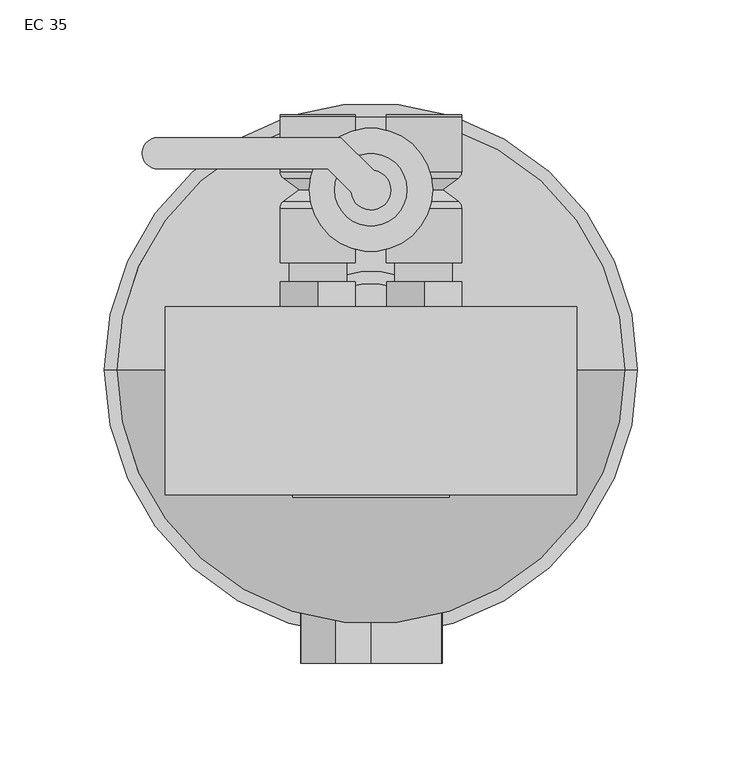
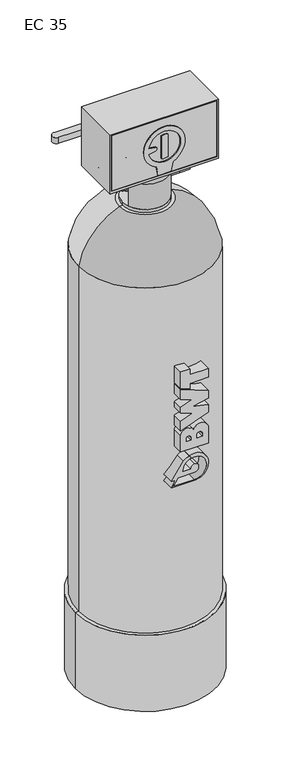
"""IFC4 building model written with IfcOpenShell, lengths in millimetres: flow terminal geometry, BWT_EC : EC 35."""

from ifc_helpers import new_model, si_unit, point, frame, frame_2d, origin, place, context, project, spatial, polyline, circle_curve, ellipse_curve, trimmed, segment, composite_curve, outline, extrude, faceted_brep, source, transform, mapped, element, save
from ifc_brep_helpers import plane_surface, cylinder_surface, revolved_surface, advanced_brep


def ec_35_b8933732(model_context):
    return source(origin(), model_context, "Body", "SolidModel", [
        advanced_brep(
        [(-25.4198693, 51.0, 932.4750273), (-43.4198693, 51.0, 932.4750273), (-7.4198693, 51.0, 932.4750273), (-7.4198693, 94.749277, 932.4750273), (-43.4198693, 94.749277, 932.4750273), (-43.4198693, 121.0, 932.4750273), (-7.4198693, 121.0, 932.4750273), (-9.0198693, 91.549277, 932.4750273), (-41.8198693, 91.549277, 932.4750273), (-16.4189054, 86.0, 932.4750273), (-34.4208333, 86.0, 932.4750273), (-9.0198693, 80.450723, 932.4750273), (-41.8198693, 80.450723, 932.4750273), (-7.4198693, 77.250723, 932.4750273), (-43.4198693, 77.250723, 932.4750273), (-43.4198693, 122.0, 932.4750273), (-7.4198693, 122.0, 932.4750273)],
        [
            (0, 1),
            (1, 2, circle_curve(frame((-25.4198693, 51.0, 932.4750273), z_axis=(0.0, -1.0, 0.0), x_axis=(-1.0, 0.0, 0.0)), 18.0)),
            (2, 0),
            (2, 1, circle_curve(frame((-25.4198693, 51.0, 932.4750273), z_axis=(0.0, -1.0, 0.0), x_axis=(-1.0, 0.0, 0.0)), 18.0)),
            (3, 4, circle_curve(frame((-25.4198693, 94.749277, 932.4750273), z_axis=(0.0, 1.0, 0.0), x_axis=(-1.0, 0.0, 0.0)), 18.0)),
            (4, 5),
            (5, 6, circle_curve(frame((-25.4198693, 121.0, 932.4750273), z_axis=(0.0, -1.0, 0.0), x_axis=(-1.0, 0.0, 0.0)), 18.0)),
            (6, 3),
            (4, 3, circle_curve(frame((-25.4198693, 94.749277, 932.4750273), z_axis=(0.0, 1.0, 0.0), x_axis=(-1.0, 0.0, 0.0)), 18.0)),
            (6, 5, circle_curve(frame((-25.4198693, 121.0, 932.4750273), z_axis=(0.0, -1.0, 0.0), x_axis=(-1.0, 0.0, 0.0)), 18.0)),
            (3, 7, circle_curve(frame((-11.4198693, 94.749277, 932.4750273), z_axis=(0.0, 0.0, -1.0), x_axis=(-1.0, 0.0, 0.0)), 4.0)),
            (7, 8, circle_curve(frame((-25.4198693, 91.549277, 932.4750273), z_axis=(0.0, 1.0, 0.0), x_axis=(-1.0, 0.0, 0.0)), 16.4)),
            (8, 4, circle_curve(frame((-39.4198693, 94.749277, 932.4750273), z_axis=(0.0, 0.0, -1.0), x_axis=(1.0, 0.0, 0.0)), 4.0)),
            (8, 7, circle_curve(frame((-25.4198693, 91.549277, 932.4750273), z_axis=(0.0, 1.0, 0.0), x_axis=(-1.0, 0.0, 0.0)), 16.4)),
            (7, 9),
            (9, 10, circle_curve(frame((-25.4198693, 86.0, 932.4750273), z_axis=(0.0, 1.0, 0.0), x_axis=(-1.0, 0.0, 0.0)), 9.000964)),
            (10, 8),
            (10, 9, circle_curve(frame((-25.4198693, 86.0, 932.4750273), z_axis=(0.0, 1.0, 0.0), x_axis=(-1.0, 0.0, 0.0)), 9.000964)),
            (9, 11),
            (11, 12, circle_curve(frame((-25.4198693, 80.450723, 932.4750273), z_axis=(0.0, 1.0, 0.0), x_axis=(-1.0, 0.0, 0.0)), 16.4)),
            (12, 10),
            (12, 11, circle_curve(frame((-25.4198693, 80.450723, 932.4750273), z_axis=(0.0, 1.0, 0.0), x_axis=(-1.0, 0.0, 0.0)), 16.4)),
            (11, 13, circle_curve(frame((-11.4198693, 77.250723, 932.4750273), z_axis=(0.0, 0.0, -1.0), x_axis=(-1.0, 0.0, 0.0)), 4.0)),
            (13, 14, circle_curve(frame((-25.4198693, 77.250723, 932.4750273), z_axis=(0.0, 1.0, 0.0), x_axis=(-1.0, 0.0, 0.0)), 18.0)),
            (14, 12, circle_curve(frame((-39.4198693, 77.250723, 932.4750273), z_axis=(0.0, 0.0, -1.0), x_axis=(1.0, 0.0, 0.0)), 4.0)),
            (14, 13, circle_curve(frame((-25.4198693, 77.250723, 932.4750273), z_axis=(0.0, 1.0, 0.0), x_axis=(-1.0, 0.0, 0.0)), 18.0)),
            (1, 14),
            (13, 2),
            (15, 16, circle_curve(frame((-25.4198693, 122.0, 932.4750273), z_axis=(0.0, 1.0, 0.0), x_axis=(-1.0, 0.0, 0.0)), 18.0)),
            (16, 15, circle_curve(frame((-25.4198693, 122.0, 932.4750273), z_axis=(0.0, 1.0, 0.0), x_axis=(-1.0, 0.0, 0.0)), 18.0)),
            (15, 5),
            (6, 16),
        ],
        [
            plane_surface(frame((-25.4198693, 51.0, 932.4750273), z_axis=(0.0, -1.0, 0.0), x_axis=(-1.0, 0.0, 0.0))),
            cylinder_surface(frame((-25.4198693, 152.9623853, 932.4750273), z_axis=(0.0, -1.0, 0.0), x_axis=(-1.0, 0.0, 0.0)), 18.0),
            revolved_surface(trimmed(ellipse_curve(frame((-39.4198693, 94.749277, 932.4750273), z_axis=(0.0, 0.0, 1.0), x_axis=(1.0, 0.0, 0.0)), 4.0, 4.0), [point((-43.4198693, 94.749277, 932.4750273))], [point((-41.8198693, 91.549277, 932.4750273))], True, "CARTESIAN"), (-25.4198693, 152.9623853, 932.4750273), (0.0, -1.0, 0.0)),
            revolved_surface(polyline([(-41.8198693, 91.549277, 932.4750273), (-34.4208333, 86.0, 932.4750273)]), (-25.4198693, 152.9623853, 932.4750273), (0.0, -1.0, 0.0)),
            revolved_surface(polyline([(-34.4208333, 86.0, 932.4750273), (-41.8198693, 80.450723, 932.4750273)]), (-25.4198693, 152.9623853, 932.4750273), (0.0, -1.0, 0.0)),
            revolved_surface(trimmed(ellipse_curve(frame((-39.4198693, 77.250723, 932.4750273), z_axis=(0.0, 0.0, 1.0), x_axis=(1.0, 0.0, 0.0)), 4.0, 4.0), [point((-41.8198693, 80.450723, 932.4750273))], [point((-43.4198693, 77.250723, 932.4750273))], True, "CARTESIAN"), (-25.4198693, 152.9623853, 932.4750273), (0.0, -1.0, 0.0)),
            plane_surface(frame((-43.4198693, 122.0, 932.4750273), z_axis=(0.0, 1.0, 0.0), x_axis=(0.0, 0.0, 1.0))),
            cylinder_surface(frame((-25.4198693, 121.0, 932.4750273), z_axis=(0.0, 1.0, 0.0), x_axis=(-1.0, 0.0, 0.0)), 18.0),
        ],
        [
            (0, [[1, 2, 3]]),
            (0, [[-1, -3, 4]]),
            (1, [[5, 6, 7, 8]]),
            (1, [[-6, 9, -8, 10]]),
            (2, [[-5, 11, 12, 13]]),
            (2, [[-9, -13, 14, -11]]),
            (3, [[-12, 15, 16, 17]]),
            (3, [[-14, -17, 18, -15]]),
            (4, [[-16, 19, 20, 21]]),
            (4, [[-18, -21, 22, -19]]),
            (5, [[-20, 23, 24, 25]]),
            (5, [[-22, -25, 26, -23]]),
            (1, [[-2, 27, -24, 28]]),
            (1, [[-4, -28, -26, -27]]),
            (6, [[29, 30]]),
            (7, [[-29, 31, -10, 32]]),
            (7, [[-30, -32, -7, -31]]),
        ],
    ),
        advanced_brep(
        [(7.3803067, 122.0, 932.4750273), (43.3803067, 122.0, 932.4750273), (7.3803067, 121.0, 932.4750273), (43.3803067, 121.0, 932.4750273), (25.3803067, 51.0, 932.4750273), (7.3803067, 51.0, 932.4750273), (43.3803067, 51.0, 932.4750273), (43.3803067, 94.749277, 932.4750273), (7.3803067, 94.749277, 932.4750273), (41.7803067, 91.549277, 932.4750273), (8.9803067, 91.549277, 932.4750273), (34.3812707, 86.0, 932.4750273), (16.3793427, 86.0, 932.4750273), (41.7803067, 80.450723, 932.4750273), (8.9803067, 80.450723, 932.4750273), (43.3803067, 77.250723, 932.4750273), (7.3803067, 77.250723, 932.4750273)],
        [
            (0, 1, circle_curve(frame((25.3803067, 122.0, 932.4750273), z_axis=(0.0, 1.0, 0.0), x_axis=(-1.0, 0.0, 0.0)), 18.0)),
            (1, 0, circle_curve(frame((25.3803067, 122.0, 932.4750273), z_axis=(0.0, 1.0, 0.0), x_axis=(-1.0, 0.0, 0.0)), 18.0)),
            (0, 2),
            (2, 3, circle_curve(frame((25.3803067, 121.0, 932.4750273), z_axis=(0.0, 1.0, 0.0), x_axis=(-1.0, 0.0, 0.0)), 18.0)),
            (3, 1),
            (3, 2, circle_curve(frame((25.3803067, 121.0, 932.4750273), z_axis=(0.0, 1.0, 0.0), x_axis=(-1.0, 0.0, 0.0)), 18.0)),
            (4, 5),
            (5, 6, circle_curve(frame((25.3803067, 51.0, 932.4750273), z_axis=(0.0, -1.0, 0.0), x_axis=(-1.0, 0.0, 0.0)), 18.0)),
            (6, 4),
            (6, 5, circle_curve(frame((25.3803067, 51.0, 932.4750273), z_axis=(0.0, -1.0, 0.0), x_axis=(-1.0, 0.0, 0.0)), 18.0)),
            (7, 8, circle_curve(frame((25.3803067, 94.749277, 932.4750273), z_axis=(0.0, 1.0, 0.0), x_axis=(-1.0, 0.0, 0.0)), 18.0)),
            (8, 2),
            (3, 7),
            (8, 7, circle_curve(frame((25.3803067, 94.749277, 932.4750273), z_axis=(0.0, 1.0, 0.0), x_axis=(-1.0, 0.0, 0.0)), 18.0)),
            (7, 9, circle_curve(frame((39.3803067, 94.749277, 932.4750273), z_axis=(0.0, 0.0, -1.0), x_axis=(-1.0, 0.0, 0.0)), 4.0)),
            (9, 10, circle_curve(frame((25.3803067, 91.549277, 932.4750273), z_axis=(0.0, 1.0, 0.0), x_axis=(-1.0, 0.0, 0.0)), 16.4)),
            (10, 8, circle_curve(frame((11.3803067, 94.749277, 932.4750273), z_axis=(0.0, 0.0, -1.0), x_axis=(1.0, 0.0, 0.0)), 4.0)),
            (10, 9, circle_curve(frame((25.3803067, 91.549277, 932.4750273), z_axis=(0.0, 1.0, 0.0), x_axis=(-1.0, 0.0, 0.0)), 16.4)),
            (9, 11),
            (11, 12, circle_curve(frame((25.3803067, 86.0, 932.4750273), z_axis=(0.0, 1.0, 0.0), x_axis=(-1.0, 0.0, 0.0)), 9.000964)),
            (12, 10),
            (12, 11, circle_curve(frame((25.3803067, 86.0, 932.4750273), z_axis=(0.0, 1.0, 0.0), x_axis=(-1.0, 0.0, 0.0)), 9.000964)),
            (11, 13),
            (13, 14, circle_curve(frame((25.3803067, 80.450723, 932.4750273), z_axis=(0.0, 1.0, 0.0), x_axis=(-1.0, 0.0, 0.0)), 16.4)),
            (14, 12),
            (14, 13, circle_curve(frame((25.3803067, 80.450723, 932.4750273), z_axis=(0.0, 1.0, 0.0), x_axis=(-1.0, 0.0, 0.0)), 16.4)),
            (13, 15, circle_curve(frame((39.3803067, 77.250723, 932.4750273), z_axis=(0.0, 0.0, -1.0), x_axis=(-1.0, 0.0, 0.0)), 4.0)),
            (15, 16, circle_curve(frame((25.3803067, 77.250723, 932.4750273), z_axis=(0.0, 1.0, 0.0), x_axis=(-1.0, 0.0, 0.0)), 18.0)),
            (16, 14, circle_curve(frame((11.3803067, 77.250723, 932.4750273), z_axis=(0.0, 0.0, -1.0), x_axis=(1.0, 0.0, 0.0)), 4.0)),
            (16, 15, circle_curve(frame((25.3803067, 77.250723, 932.4750273), z_axis=(0.0, 1.0, 0.0), x_axis=(-1.0, 0.0, 0.0)), 18.0)),
            (5, 16),
            (15, 6),
        ],
        [
            plane_surface(frame((-43.4198693, 122.0, 932.4750273), z_axis=(0.0, 1.0, 0.0), x_axis=(0.0, 0.0, 1.0))),
            cylinder_surface(frame((25.3803067, 121.0, 932.4750273), z_axis=(0.0, 1.0, 0.0), x_axis=(-1.0, 0.0, 0.0)), 18.0),
            plane_surface(frame((25.3803067, 51.0, 932.4750273), z_axis=(0.0, -1.0, 0.0), x_axis=(-1.0, 0.0, 0.0))),
            cylinder_surface(frame((25.3803067, 152.9623853, 932.4750273), z_axis=(0.0, -1.0, 0.0), x_axis=(-1.0, 0.0, 0.0)), 18.0),
            revolved_surface(trimmed(ellipse_curve(frame((11.3803067, 94.749277, 932.4750273), z_axis=(0.0, 0.0, 1.0), x_axis=(1.0, 0.0, 0.0)), 4.0, 4.0), [point((7.3803067, 94.749277, 932.4750273))], [point((8.9803067, 91.549277, 932.4750273))], True, "CARTESIAN"), (25.3803067, 152.9623853, 932.4750273), (0.0, -1.0, 0.0)),
            revolved_surface(polyline([(8.9803067, 91.549277, 932.4750273), (16.3793427, 86.0, 932.4750273)]), (25.3803067, 152.9623853, 932.4750273), (0.0, -1.0, 0.0)),
            revolved_surface(polyline([(16.3793427, 86.0, 932.4750273), (8.9803067, 80.450723, 932.4750273)]), (25.3803067, 152.9623853, 932.4750273), (0.0, -1.0, 0.0)),
            revolved_surface(trimmed(ellipse_curve(frame((11.3803067, 77.250723, 932.4750273), z_axis=(0.0, 0.0, 1.0), x_axis=(1.0, 0.0, 0.0)), 4.0, 4.0), [point((8.9803067, 80.450723, 932.4750273))], [point((7.3803067, 77.250723, 932.4750273))], True, "CARTESIAN"), (25.3803067, 152.9623853, 932.4750273), (0.0, -1.0, 0.0)),
        ],
        [
            (0, [[1, 2]]),
            (1, [[-1, 3, 4, 5]]),
            (1, [[-2, -5, 6, -3]]),
            (2, [[7, 8, 9]]),
            (2, [[-7, -9, 10]]),
            (3, [[11, 12, -6, 13]]),
            (3, [[-12, 14, -13, -4]]),
            (4, [[-11, 15, 16, 17]]),
            (4, [[-14, -17, 18, -15]]),
            (5, [[-16, 19, 20, 21]]),
            (5, [[-18, -21, 22, -19]]),
            (6, [[-20, 23, 24, 25]]),
            (6, [[-22, -25, 26, -23]]),
            (7, [[-24, 27, 28, 29]]),
            (7, [[-26, -29, 30, -27]]),
            (3, [[-8, 31, -28, 32]]),
            (3, [[-10, -32, -30, -31]]),
        ],
    ),
        extrude(outline(polyline([(96.2035118, -58.8371146), (-95.5486478, -58.8371146), (-95.5486478, -54.8371146), (96.2035118, -54.8371146), (96.2035118, -58.8371146)])), frame((0.0, 0.0, 979.9189903), z_axis=(0.0, 0.0, 1.0), x_axis=(1.0, 0.0, 0.0)), (0.0, 0.0, 1.0), 106.7326791),
        extrude(outline(polyline([(12.4852191, 971.7781008), (15.7188089, 967.2456461), (13.4103829, 962.1790479), (7.868367, 961.6449043), (4.6347772, 966.177359), (6.9432033, 971.2439573), (12.4852191, 971.7781008)])), frame((61.9425108, 0.0, 0.0), z_axis=(1.0, 0.0, 0.0), x_axis=(0.0, 1.0, 0.0)), (0.0, 0.0, 1.0), 8.5574892),
        advanced_brep(
        [(33.3436037, 10.077573, 966.7096012), (33.3436037, 10.077573, 975.3615171), (33.3436037, 10.077573, 958.0576853), (61.9425108, 10.077573, 958.0576853), (61.9425108, 10.077573, 975.3615171), (61.9425108, 10.077573, 966.7096012)],
        [
            (0, 1),
            (1, 2, circle_curve(frame((33.3436037, 10.077573, 966.7096012), z_axis=(-1.0, 0.0, 0.0), x_axis=(0.0, 0.0, 1.0)), 8.6519159)),
            (2, 0),
            (2, 1, circle_curve(frame((33.3436037, 10.077573, 966.7096012), z_axis=(-1.0, 0.0, 0.0), x_axis=(0.0, 0.0, 1.0)), 8.6519159)),
            (3, 4, circle_curve(frame((61.9425108, 10.077573, 966.7096012), z_axis=(1.0, 0.0, 0.0), x_axis=(0.0, 0.0, 1.0)), 8.6519159)),
            (4, 5),
            (5, 3),
            (4, 3, circle_curve(frame((61.9425108, 10.077573, 966.7096012), z_axis=(1.0, 0.0, 0.0), x_axis=(0.0, 0.0, 1.0)), 8.6519159)),
            (1, 4),
            (3, 2),
        ],
        [
            plane_surface(frame((33.3436037, 10.077573, 966.7096012), z_axis=(-1.0, 0.0, 0.0), x_axis=(0.0, 0.0, 1.0))),
            plane_surface(frame((61.9425108, 10.077573, 966.7096012), z_axis=(1.0, 0.0, 0.0), x_axis=(0.0, 0.0, 1.0))),
            cylinder_surface(frame((49.1268561, 10.077573, 966.7096012), z_axis=(-1.0, 0.0, 0.0), x_axis=(0.0, 0.0, 1.0)), 8.6519159),
        ],
        [
            (0, [[1, 2, 3]]),
            (0, [[-3, 4, -1]]),
            (1, [[5, 6, 7]]),
            (1, [[8, -7, -6]]),
            (2, [[-2, 9, -5, 10]]),
            (2, [[-4, -10, -8, -9]]),
        ],
    ),
        advanced_brep(
        [(16.2211812, 10.077573, 966.7096012), (16.2211812, 10.077573, 971.6490423), (16.2211812, 10.077573, 961.7701601), (33.3436037, 10.077573, 961.7701601), (33.3436037, 10.077573, 971.6490423), (33.3436037, 10.077573, 966.7096012)],
        [
            (0, 1),
            (1, 2, circle_curve(frame((16.2211812, 10.077573, 966.7096012), z_axis=(-1.0, 0.0, 0.0), x_axis=(0.0, 0.0, 1.0)), 4.9394411)),
            (2, 0),
            (2, 1, circle_curve(frame((16.2211812, 10.077573, 966.7096012), z_axis=(-1.0, 0.0, 0.0), x_axis=(0.0, 0.0, 1.0)), 4.9394411)),
            (3, 4, circle_curve(frame((33.3436037, 10.077573, 966.7096012), z_axis=(1.0, 0.0, 0.0), x_axis=(0.0, 0.0, 1.0)), 4.9394411)),
            (4, 5),
            (5, 3),
            (4, 3, circle_curve(frame((33.3436037, 10.077573, 966.7096012), z_axis=(1.0, 0.0, 0.0), x_axis=(0.0, 0.0, 1.0)), 4.9394411)),
            (1, 4),
            (3, 2),
        ],
        [
            plane_surface(frame((16.2211812, 10.077573, 966.7096012), z_axis=(-1.0, 0.0, 0.0), x_axis=(0.0, 0.0, 1.0))),
            plane_surface(frame((33.3436037, 10.077573, 966.7096012), z_axis=(1.0, 0.0, 0.0), x_axis=(0.0, 0.0, 1.0))),
            cylinder_surface(frame((15.7194931, 10.077573, 966.7096012), z_axis=(-1.0, 0.0, 0.0), x_axis=(0.0, 0.0, 1.0)), 4.9394411),
        ],
        [
            (0, [[1, 2, 3]]),
            (0, [[-3, 4, -1]]),
            (1, [[5, 6, 7]]),
            (1, [[8, -7, -6]]),
            (2, [[-2, 9, -5, 10]]),
            (2, [[-4, -10, -8, -9]]),
        ],
    ),
        extrude(outline(composite_curve([segment(polyline([(999.1706784, -15.0), (981.5304042, -11.7297557), (981.5304042, 11.7297557), (999.1706784, 15.0)]), True, "CONTINUOUS"), segment(trimmed(circle_curve(frame_2d((1033.5399961, 0.0)), 37.5), [point((999.1706784, 15.0))], [point((999.1706784, -15.0))], False, "CARTESIAN"), True, "CONTINUOUS")], self_intersect=False), holes=[composite_curve([segment(trimmed(circle_curve(frame_2d((1033.5399961, 0.0)), 29.0), [point((1060.1189352, 11.6))], [point((1006.9610571, 11.6))], True, "CARTESIAN"), True, "CONTINUOUS"), segment(trimmed(circle_curve(frame_2d((1033.5399961, 0.0)), 29.0), [point((1006.9610571, 11.6))], [point((1006.9610571, -11.6))], True, "CARTESIAN"), True, "CONTINUOUS"), segment(trimmed(circle_curve(frame_2d((1033.5399961, 0.0)), 29.0), [point((1006.9610571, -11.6))], [point((1027.8738042, -28.4410666))], True, "CARTESIAN"), True, "CONTINUOUS"), segment(polyline([(1027.8738042, -28.4410666), (1029.5399961, -17.2034068)]), True, "CONTINUOUS"), segment(trimmed(circle_curve(frame_2d((1033.5399961, -17.2034068)), 4.0), [point((1029.5399961, -17.2034068))], [point((1037.5399961, -17.2034068))], False, "CARTESIAN"), True, "CONTINUOUS"), segment(polyline([(1037.5399961, -17.2034068), (1039.206188, -28.4410666)]), True, "CONTINUOUS"), segment(trimmed(circle_curve(frame_2d((1033.5399961, 0.0)), 29.0), [point((1039.206188, -28.4410666))], [point((1060.1189352, -11.6))], True, "CARTESIAN"), True, "CONTINUOUS"), segment(trimmed(circle_curve(frame_2d((1033.5399961, 0.0)), 29.0), [point((1060.1189352, -11.6))], [point((1060.1189352, 11.6))], True, "CARTESIAN"), True, "CONTINUOUS")], self_intersect=False)]), frame((0.0, -61.1092325, 0.0), z_axis=(0.0, 1.0, 0.0), x_axis=(0.0, 0.0, 1.0)), (0.0, 0.0, 1.0), 6.272118),
        extrude(outline(composite_curve([segment(trimmed(circle_curve(frame_2d((1033.5399961, 0.0)), 22.5), [point((1055.2252446, 6.0))], [point((1055.2252446, -6.0))], False, "CARTESIAN"), True, "CONTINUOUS"), segment(polyline([(1055.2252446, -6.0), (1011.8547477, -6.0)]), True, "CONTINUOUS"), segment(trimmed(circle_curve(frame_2d((1033.5399961, 0.0)), 22.5), [point((1011.8547477, -6.0))], [point((1011.8547477, 6.0))], False, "CARTESIAN"), True, "CONTINUOUS"), segment(polyline([(1011.8547477, 6.0), (1055.2252446, 6.0)]), True, "CONTINUOUS")], self_intersect=False)), frame((0.0, -61.1092325, 0.0), z_axis=(0.0, 1.0, 0.0), x_axis=(0.0, 0.0, 1.0)), (0.0, 0.0, 1.0), 6.272118),
        faceted_brep([(-98.4688118, -60.0, 1089.1862416), (98.4688118, -60.0, 1089.1862416), (98.4688118, 30.0, 1089.1862416), (-98.4688118, 30.0, 1089.1862416), (-98.4688118, -60.0, 975.9355054), (-98.4688118, 30.0, 975.9355054), (98.4688118, 30.0, 975.9355054), (98.4688118, -60.0, 975.9355054), (-95.5486478, -60.0, 1086.6516694), (96.2035118, -60.0, 1086.6516694), (96.2035118, -60.0, 979.9189903), (-95.5486478, -60.0, 979.9189903), (-95.5486478, -54.8371146, 1086.6516694), (-95.5486478, -54.8371146, 979.9189903), (96.2035118, -54.8371146, 979.9189903), (96.2035118, -54.8371146, 1086.6516694)], [[[0, 1, 2, 3]], [[4, 5, 6, 7]], [[1, 0, 4, 7], [8, 9, 10, 11]], [[2, 1, 7, 6]], [[3, 2, 6, 5]], [[0, 3, 5, 4]], [[12, 13, 14, 15]], [[12, 15, 9, 8]], [[15, 14, 10, 9]], [[14, 13, 11, 10]], [[13, 12, 8, 11]]]),
        extrude(outline(composite_curve([segment(polyline([(10.077573, 941.6830398), (3.6925169, 935.2979837), (-13.5373709, 935.2979837), (-19.922427, 941.6830398)]), True, "CONTINUOUS"), segment(trimmed(circle_curve(frame_2d((-19.922427, 946.6224809)), 4.9394411), [point((-19.922427, 941.6830398))], [point((-19.922427, 951.561922))], False, "CARTESIAN"), True, "CONTINUOUS"), segment(polyline([(-19.922427, 951.561922), (-13.5373709, 957.9469781), (3.6925169, 957.9469781), (10.077573, 951.561922)]), True, "CONTINUOUS"), segment(trimmed(circle_curve(frame_2d((10.077573, 946.6224809)), 4.9394411), [point((10.077573, 951.561922))], [point((10.077573, 941.6830398))], False, "CARTESIAN"), True, "CONTINUOUS")], self_intersect=False)), frame((49.3489527, 0.0, 0.0), z_axis=(1.0, 0.0, 0.0), x_axis=(0.0, 1.0, 0.0)), (0.0, 0.0, 1.0), 18.1723162),
        extrude(outline(composite_curve([segment(trimmed(circle_curve(frame_2d((932.415, -25.2442723)), 13.75), [point((932.415, -11.4942723))], [point((932.415, -38.9942723))], False, "CARTESIAN"), True, "CONTINUOUS"), segment(trimmed(circle_curve(frame_2d((932.415, -25.2442723)), 13.75), [point((932.415, -38.9942723))], [point((932.415, -11.4942723))], False, "CARTESIAN"), True, "CONTINUOUS")], self_intersect=False)), frame((0.0, 42.0, 0.0), z_axis=(0.0, 1.0, 0.0), x_axis=(0.0, 0.0, 1.0)), (0.0, 0.0, 1.0), 9.0),
        advanced_brep(
        [(16.2211812, 10.077573, 946.6224809), (16.2211812, 10.077573, 951.561922), (16.2211812, 10.077573, 941.6830398), (49.3489527, 10.077573, 941.6830398), (49.3489527, 10.077573, 951.561922), (49.3489527, 10.077573, 946.6224809)],
        [
            (0, 1),
            (1, 2, circle_curve(frame((16.2211812, 10.077573, 946.6224809), z_axis=(-1.0, 0.0, 0.0), x_axis=(0.0, 0.0, 1.0)), 4.9394411)),
            (2, 0),
            (2, 1, circle_curve(frame((16.2211812, 10.077573, 946.6224809), z_axis=(-1.0, 0.0, 0.0), x_axis=(0.0, 0.0, 1.0)), 4.9394411)),
            (3, 4, circle_curve(frame((49.3489527, 10.077573, 946.6224809), z_axis=(1.0, 0.0, 0.0), x_axis=(0.0, 0.0, 1.0)), 4.9394411)),
            (4, 5),
            (5, 3),
            (4, 3, circle_curve(frame((49.3489527, 10.077573, 946.6224809), z_axis=(1.0, 0.0, 0.0), x_axis=(0.0, 0.0, 1.0)), 4.9394411)),
            (1, 4),
            (3, 2),
        ],
        [
            plane_surface(frame((16.2211812, 10.077573, 946.6224809), z_axis=(-1.0, 0.0, 0.0), x_axis=(0.0, 0.0, 1.0))),
            plane_surface(frame((49.3489527, 10.077573, 946.6224809), z_axis=(1.0, 0.0, 0.0), x_axis=(0.0, 0.0, 1.0))),
            cylinder_surface(frame((15.7194931, 10.077573, 946.6224809), z_axis=(-1.0, 0.0, 0.0), x_axis=(0.0, 0.0, 1.0)), 4.9394411),
        ],
        [
            (0, [[1, 2, 3]]),
            (0, [[-3, 4, -1]]),
            (1, [[5, 6, 7]]),
            (1, [[8, -7, -6]]),
            (2, [[-2, 9, -5, 10]]),
            (2, [[-4, -10, -8, -9]]),
        ],
    ),
        extrude(outline(composite_curve([segment(trimmed(circle_curve(frame_2d((932.415, 25.2244777)), 13.75), [point((932.415, 38.9744777))], [point((932.415, 11.4744777))], False, "CARTESIAN"), True, "CONTINUOUS"), segment(trimmed(circle_curve(frame_2d((932.415, 25.2244777)), 13.75), [point((932.415, 11.4744777))], [point((932.415, 38.9744777))], False, "CARTESIAN"), True, "CONTINUOUS")], self_intersect=False)), frame((0.0, 42.0, 0.0), z_axis=(0.0, 1.0, 0.0), x_axis=(0.0, 0.0, 1.0)), (0.0, 0.0, 1.0), 9.0),
        advanced_brep(
        [(16.2211812, -19.922427, 946.6224809), (16.2211812, -19.922427, 951.561922), (16.2211812, -19.922427, 941.6830398), (49.3489527, -19.922427, 941.6830398), (49.3489527, -19.922427, 951.561922), (49.3489527, -19.922427, 946.6224809)],
        [
            (0, 1),
            (1, 2, circle_curve(frame((16.2211812, -19.922427, 946.6224809), z_axis=(-1.0, 0.0, 0.0), x_axis=(0.0, 0.0, 1.0)), 4.9394411)),
            (2, 0),
            (2, 1, circle_curve(frame((16.2211812, -19.922427, 946.6224809), z_axis=(-1.0, 0.0, 0.0), x_axis=(0.0, 0.0, 1.0)), 4.9394411)),
            (3, 4, circle_curve(frame((49.3489527, -19.922427, 946.6224809), z_axis=(1.0, 0.0, 0.0), x_axis=(0.0, 0.0, 1.0)), 4.9394411)),
            (4, 5),
            (5, 3),
            (4, 3, circle_curve(frame((49.3489527, -19.922427, 946.6224809), z_axis=(1.0, 0.0, 0.0), x_axis=(0.0, 0.0, 1.0)), 4.9394411)),
            (1, 4),
            (3, 2),
        ],
        [
            plane_surface(frame((16.2211812, -19.922427, 946.6224809), z_axis=(-1.0, 0.0, 0.0), x_axis=(0.0, 0.0, 1.0))),
            plane_surface(frame((49.3489527, -19.922427, 946.6224809), z_axis=(1.0, 0.0, 0.0), x_axis=(0.0, 0.0, 1.0))),
            cylinder_surface(frame((15.7194931, -19.922427, 946.6224809), z_axis=(-1.0, 0.0, 0.0), x_axis=(0.0, 0.0, 1.0)), 4.9394411),
        ],
        [
            (0, [[1, 2, 3]]),
            (0, [[-3, 4, -1]]),
            (1, [[5, 6, 7]]),
            (1, [[8, -7, -6]]),
            (2, [[-2, 9, -5, 10]]),
            (2, [[-4, -10, -8, -9]]),
        ],
    ),
        extrude(outline(polyline([(-9.236693, 937.7347607), (-5.3893163, 946.1790912), (3.8473767, 947.0693304), (9.236693, 939.5152393), (5.3893163, 931.0709088), (-3.8473767, 930.1806696), (-9.236693, 937.7347607)])), frame((-49.5, 0.0, 0.0), z_axis=(1.0, 0.0, 0.0), x_axis=(0.0, 1.0, 0.0)), (0.0, 0.0, 1.0), 4.5818966),
        advanced_brep(
        [(-44.9181034, 0.0, 938.625), (-44.9181034, 0.0, 949.375), (-44.9181034, 0.0, 927.875), (-23.5189903, 0.0, 927.875), (-23.5189903, 0.0, 949.375), (-23.5189903, 0.0, 938.625)],
        [
            (0, 1),
            (1, 2, circle_curve(frame((-44.9181034, 0.0, 938.625), z_axis=(-1.0, 0.0, 0.0), x_axis=(0.0, 0.0, 1.0)), 10.75)),
            (2, 0),
            (2, 1, circle_curve(frame((-44.9181034, 0.0, 938.625), z_axis=(-1.0, 0.0, 0.0), x_axis=(0.0, 0.0, 1.0)), 10.75)),
            (3, 4, circle_curve(frame((-23.5189903, 0.0, 938.625), z_axis=(1.0, 0.0, 0.0), x_axis=(0.0, 0.0, 1.0)), 10.75)),
            (4, 5),
            (5, 3),
            (4, 3, circle_curve(frame((-23.5189903, 0.0, 938.625), z_axis=(1.0, 0.0, 0.0), x_axis=(0.0, 0.0, 1.0)), 10.75)),
            (1, 4),
            (3, 2),
        ],
        [
            plane_surface(frame((-44.9181034, 0.0, 938.625), z_axis=(-1.0, 0.0, 0.0), x_axis=(0.0, 0.0, 1.0))),
            plane_surface(frame((-23.5189903, 0.0, 938.625), z_axis=(1.0, 0.0, 0.0), x_axis=(0.0, 0.0, 1.0))),
            cylinder_surface(frame((-54.704096, 0.0, 938.625), z_axis=(-1.0, 0.0, 0.0), x_axis=(0.0, 0.0, 1.0)), 10.75),
        ],
        [
            (0, [[1, 2, 3]]),
            (0, [[-3, 4, -1]]),
            (1, [[5, 6, 7]]),
            (1, [[8, -7, -6]]),
            (2, [[-2, 9, -5, 10]]),
            (2, [[-4, -10, -8, -9]]),
        ],
    ),
        advanced_brep(
        [(25.4, 0.0, 942.2421182), (25.4, 0.0, 922.5878818), (25.4, 0.0, 932.415), (25.4, 4.1055728, 947.1614678), (25.4, 4.1055728, 917.6685322), (25.4, 22.0, 950.415), (25.4, 22.0, 914.415), (25.4, 42.0, 950.415), (25.4, 42.0, 914.415), (25.4, 42.0, 932.415)],
        [
            (0, 1, circle_curve(frame((25.4, 0.0, 932.415), z_axis=(0.0, -1.0, 0.0), x_axis=(0.0, 0.0, -1.0)), 9.8271182)),
            (1, 2),
            (2, 0),
            (1, 0, circle_curve(frame((25.4, 0.0, 932.415), z_axis=(0.0, -1.0, 0.0), x_axis=(0.0, 0.0, -1.0)), 9.8271182)),
            (3, 4, circle_curve(frame((25.4, 4.1055728, 932.415), z_axis=(0.0, -1.0, 0.0), x_axis=(0.0, 0.0, -1.0)), 14.7464678)),
            (4, 1, circle_curve(frame((25.4, 5.0, 922.5878818), z_axis=(-1.0, 0.0, 0.0), x_axis=(0.0, -1.0, 0.0)), 5.0)),
            (0, 3, circle_curve(frame((25.4, 5.0, 942.2421182), z_axis=(-1.0, 0.0, 0.0), x_axis=(0.0, -1.0, 0.0)), 5.0)),
            (4, 3, circle_curve(frame((25.4, 4.1055728, 932.415), z_axis=(0.0, -1.0, 0.0), x_axis=(0.0, 0.0, -1.0)), 14.7464678)),
            (5, 6, circle_curve(frame((25.4, 22.0, 932.415), z_axis=(0.0, -1.0, 0.0), x_axis=(0.0, 0.0, -1.0)), 18.0)),
            (6, 4),
            (3, 5),
            (6, 5, circle_curve(frame((25.4, 22.0, 932.415), z_axis=(0.0, -1.0, 0.0), x_axis=(0.0, 0.0, -1.0)), 18.0)),
            (7, 8, circle_curve(frame((25.4, 42.0, 932.415), z_axis=(0.0, -1.0, 0.0), x_axis=(0.0, 0.0, -1.0)), 18.0)),
            (8, 6),
            (5, 7),
            (8, 7, circle_curve(frame((25.4, 42.0, 932.415), z_axis=(0.0, -1.0, 0.0), x_axis=(0.0, 0.0, -1.0)), 18.0)),
            (9, 8),
            (7, 9),
        ],
        [
            plane_surface(frame((25.4, 0.0, 932.415), z_axis=(0.0, -1.0, 0.0), x_axis=(0.0, 0.0, -1.0))),
            revolved_surface(trimmed(ellipse_curve(frame((25.4, 5.0, 922.5878818), z_axis=(1.0, 0.0, 0.0), x_axis=(0.0, -1.0, 0.0)), 5.0, 5.0), [point((25.4, 0.0, 922.5878818))], [point((25.4, 4.1055728, 917.6685322))], True, "CARTESIAN"), (25.4, 0.0, 932.415), (0.0, 1.0, 0.0)),
            revolved_surface(polyline([(25.4, 4.1055728, 917.6685322), (25.4, 22.0, 914.415)]), (25.4, 0.0, 932.415), (0.0, 1.0, 0.0)),
            cylinder_surface(frame((25.4, 0.0, 932.415), z_axis=(0.0, 1.0, 0.0), x_axis=(0.0, 0.0, -1.0)), 18.0),
            plane_surface(frame((25.4, 42.0, 932.415), z_axis=(0.0, 1.0, 0.0), x_axis=(0.0, 0.0, -1.0))),
        ],
        [
            (0, [[1, 2, 3]]),
            (0, [[4, -3, -2]]),
            (1, [[5, 6, -1, 7]]),
            (1, [[8, -7, -4, -6]]),
            (2, [[9, 10, -5, 11]]),
            (2, [[12, -11, -8, -10]]),
            (3, [[13, 14, -9, 15]]),
            (3, [[16, -15, -12, -14]]),
            (4, [[17, -13, 18]]),
            (4, [[-18, -16, -17]]),
        ],
    ),
        advanced_brep(
        [(-25.4798264, 0.0, 942.2421182), (-25.4798264, 0.0, 922.5878818), (-25.4798264, 0.0, 932.415), (-25.4798264, 4.1055728, 947.1614678), (-25.4798264, 4.1055728, 917.6685322), (-25.4798264, 22.0, 950.415), (-25.4798264, 22.0, 914.415), (-25.4798264, 42.0, 950.415), (-25.4798264, 42.0, 914.415), (-25.4798264, 42.0, 932.415)],
        [
            (0, 1, circle_curve(frame((-25.4798264, 0.0, 932.415), z_axis=(0.0, -1.0, 0.0), x_axis=(0.0, 0.0, -1.0)), 9.8271182)),
            (1, 2),
            (2, 0),
            (1, 0, circle_curve(frame((-25.4798264, 0.0, 932.415), z_axis=(0.0, -1.0, 0.0), x_axis=(0.0, 0.0, -1.0)), 9.8271182)),
            (3, 4, circle_curve(frame((-25.4798264, 4.1055728, 932.415), z_axis=(0.0, -1.0, 0.0), x_axis=(0.0, 0.0, -1.0)), 14.7464678)),
            (4, 1, circle_curve(frame((-25.4798264, 5.0, 922.5878818), z_axis=(-1.0, 0.0, 0.0), x_axis=(0.0, -1.0, 0.0)), 5.0)),
            (0, 3, circle_curve(frame((-25.4798264, 5.0, 942.2421182), z_axis=(-1.0, 0.0, 0.0), x_axis=(0.0, -1.0, 0.0)), 5.0)),
            (4, 3, circle_curve(frame((-25.4798264, 4.1055728, 932.415), z_axis=(0.0, -1.0, 0.0), x_axis=(0.0, 0.0, -1.0)), 14.7464678)),
            (5, 6, circle_curve(frame((-25.4798264, 22.0, 932.415), z_axis=(0.0, -1.0, 0.0), x_axis=(0.0, 0.0, -1.0)), 18.0)),
            (6, 4),
            (3, 5),
            (6, 5, circle_curve(frame((-25.4798264, 22.0, 932.415), z_axis=(0.0, -1.0, 0.0), x_axis=(0.0, 0.0, -1.0)), 18.0)),
            (7, 8, circle_curve(frame((-25.4798264, 42.0, 932.415), z_axis=(0.0, -1.0, 0.0), x_axis=(0.0, 0.0, -1.0)), 18.0)),
            (8, 6),
            (5, 7),
            (8, 7, circle_curve(frame((-25.4798264, 42.0, 932.415), z_axis=(0.0, -1.0, 0.0), x_axis=(0.0, 0.0, -1.0)), 18.0)),
            (9, 8),
            (7, 9),
        ],
        [
            plane_surface(frame((-25.4798264, 0.0, 932.415), z_axis=(0.0, -1.0, 0.0), x_axis=(0.0, 0.0, -1.0))),
            revolved_surface(trimmed(ellipse_curve(frame((-25.4798264, 5.0, 922.5878818), z_axis=(1.0, 0.0, 0.0), x_axis=(0.0, -1.0, 0.0)), 5.0, 5.0), [point((-25.4798264, 0.0, 922.5878818))], [point((-25.4798264, 4.1055728, 917.6685322))], True, "CARTESIAN"), (-25.4798264, 0.0, 932.415), (0.0, 1.0, 0.0)),
            revolved_surface(polyline([(-25.4798264, 4.1055728, 917.6685322), (-25.4798264, 22.0, 914.415)]), (-25.4798264, 0.0, 932.415), (0.0, 1.0, 0.0)),
            cylinder_surface(frame((-25.4798264, 0.0, 932.415), z_axis=(0.0, 1.0, 0.0), x_axis=(0.0, 0.0, -1.0)), 18.0),
            plane_surface(frame((-25.4798264, 42.0, 932.415), z_axis=(0.0, 1.0, 0.0), x_axis=(0.0, 0.0, -1.0))),
        ],
        [
            (0, [[1, 2, 3]]),
            (0, [[4, -3, -2]]),
            (1, [[5, 6, -1, 7]]),
            (1, [[8, -7, -4, -6]]),
            (2, [[9, 10, -5, 11]]),
            (2, [[12, -11, -8, -10]]),
            (3, [[13, 14, -9, 15]]),
            (3, [[16, -15, -12, -14]]),
            (4, [[17, -13, 18]]),
            (4, [[-18, -16, -17]]),
        ],
    ),
        advanced_brep(
        [(-101.8933983, 96.0, 991.415), (-20.6066017, 96.0, 991.415), (-9.4491479, 84.8425462, 991.415), (9.4986096, 85.8374721, 991.415), (1.3684027, 95.238199, 991.415), (-14.3933983, 111.0, 991.415), (-101.8933983, 111.0, 991.415), (-101.8933983, 96.0, 979.915), (-101.8933983, 111.0, 979.915), (-14.3933983, 111.0, 979.915), (1.3684027, 95.238199, 979.915), (-9.5013904, 85.8374721, 979.915), (-9.4491479, 84.8425462, 979.915), (-20.6066017, 96.0, 979.915), (-9.5013904, 85.8374721, 967.4148717), (9.4986096, 85.8374721, 967.4148717)],
        [
            (0, 1),
            (1, 2),
            (2, 3, circle_curve(frame((-0.0013904, 85.8374721, 991.415), z_axis=(0.0, 0.0, 1.0), x_axis=(1.0, 0.0, 0.0)), 9.5)),
            (3, 4, circle_curve(frame((-0.0013904, 85.8374721, 991.415), z_axis=(0.0, 0.0, 1.0), x_axis=(1.0, 0.0, 0.0)), 9.5)),
            (4, 5),
            (5, 6),
            (6, 0, circle_curve(frame((-101.8933983, 103.5, 991.415), z_axis=(0.0, 0.0, 1.0), x_axis=(1.0, 0.0, 0.0)), 7.5)),
            (7, 8, circle_curve(frame((-101.8933983, 103.5, 979.915), z_axis=(0.0, 0.0, -1.0), x_axis=(1.0, 0.0, 0.0)), 7.5)),
            (8, 9),
            (9, 10),
            (10, 11, circle_curve(frame((-0.0013904, 85.8374721, 979.915), z_axis=(0.0, 0.0, 1.0), x_axis=(1.0, 0.0, 0.0)), 9.5)),
            (11, 12, circle_curve(frame((-0.0013904, 85.8374721, 979.915), z_axis=(0.0, 0.0, 1.0), x_axis=(1.0, 0.0, 0.0)), 9.5)),
            (12, 13),
            (13, 7),
            (0, 7),
            (13, 1),
            (12, 2),
            (4, 10),
            (9, 5),
            (8, 6),
            (14, 15, circle_curve(frame((-0.0013904, 85.8374721, 967.4148717), z_axis=(0.0, 0.0, -1.0), x_axis=(1.0, 0.0, 0.0)), 9.5)),
            (15, 14, circle_curve(frame((-0.0013904, 85.8374721, 967.4148717), z_axis=(0.0, 0.0, -1.0), x_axis=(1.0, 0.0, 0.0)), 9.5)),
            (15, 3),
            (11, 14),
        ],
        [
            plane_surface(frame((-101.8933983, 96.0, 991.415), z_axis=(0.0, 0.0, 1.0), x_axis=(1.0, 0.0, 0.0))),
            plane_surface(frame((-101.8933983, 96.0, 979.915), z_axis=(0.0, 0.0, -1.0), x_axis=(-1.0, 0.0, 0.0))),
            plane_surface(frame((-101.8933983, 96.0, 991.415), z_axis=(0.0, -1.0, 0.0), x_axis=(0.0, 0.0, -1.0))),
            plane_surface(frame((-20.6066017, 96.0, 991.415), z_axis=(-0.7071067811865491, -0.707106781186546, 0.0), x_axis=(0.0, 0.0, -1.0))),
            plane_surface(frame((1.3684027, 95.238199, 991.415), z_axis=(0.7071067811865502, 0.7071067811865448, 0.0), x_axis=(0.0, 0.0, -1.0))),
            plane_surface(frame((-14.3933983, 111.0, 991.415), z_axis=(0.0, 1.0, 0.0), x_axis=(0.0, 0.0, -1.0))),
            cylinder_surface(frame((-101.8933983, 103.5, 979.915), z_axis=(0.0, 0.0, 1.0), x_axis=(1.0, 0.0, 0.0)), 7.5),
            plane_surface(frame((9.4986096, 85.8374721, 967.4148717), z_axis=(0.0, 0.0, -1.0), x_axis=(0.0, -1.0, 0.0))),
            cylinder_surface(frame((-0.0013904, 85.8374721, 967.4148717), z_axis=(0.0, 0.0, 1.0), x_axis=(1.0, 0.0, 0.0)), 9.5),
        ],
        [
            (0, [[1, 2, 3, 4, 5, 6, 7]]),
            (1, [[8, 9, 10, 11, 12, 13, 14]]),
            (2, [[-1, 15, -14, 16]]),
            (3, [[-2, -16, -13, 17]]),
            (4, [[-5, 18, -10, 19]]),
            (5, [[-6, -19, -9, 20]]),
            (6, [[-7, -20, -8, -15]]),
            (7, [[21, 22]]),
            (8, [[-22, 23, -3, -17, -12, 24]]),
            (8, [[-21, -24, -11, -18, -4, -23]]),
        ],
    ),
        extrude(outline(composite_curve([segment(trimmed(circle_curve(frame_2d((-0.0624721, 86.03125)), 17.3), [point((-17.3624721, 86.03125))], [point((17.2375279, 86.03125))], False, "CARTESIAN"), True, "CONTINUOUS"), segment(trimmed(circle_curve(frame_2d((-0.0624721, 86.03125)), 17.3), [point((17.2375279, 86.03125))], [point((-17.3624721, 86.03125))], False, "CARTESIAN"), True, "CONTINUOUS")], self_intersect=False)), frame((0.0, 0.0, 953.415), z_axis=(0.0, 0.0, 1.0), x_axis=(1.0, 0.0, 0.0)), (0.0, 0.0, 1.0), 13.9998717),
        extrude(outline(composite_curve([segment(trimmed(circle_curve(frame_2d((0.0, 86.03125)), 29.5), [point((-29.5, 86.03125))], [point((29.5, 86.03125))], False, "CARTESIAN"), True, "CONTINUOUS"), segment(trimmed(circle_curve(frame_2d((0.0, 86.03125)), 29.5), [point((29.5, 86.03125))], [point((-29.5, 86.03125))], False, "CARTESIAN"), True, "CONTINUOUS")], self_intersect=False)), frame((0.0, 0.0, 911.415), z_axis=(0.0, 0.0, 1.0), x_axis=(1.0, 0.0, 0.0)), (0.0, 0.0, 1.0), 3.0),
        extrude(outline(composite_curve([segment(trimmed(circle_curve(frame_2d((0.0, 86.03125)), 29.5), [point((-29.5, 86.03125))], [point((29.5, 86.03125))], False, "CARTESIAN"), True, "CONTINUOUS"), segment(trimmed(circle_curve(frame_2d((0.0, 86.03125)), 29.5), [point((29.5, 86.03125))], [point((-29.5, 86.03125))], False, "CARTESIAN"), True, "CONTINUOUS")], self_intersect=False)), frame((0.0, 0.0, 950.415), z_axis=(0.0, 0.0, 1.0), x_axis=(1.0, 0.0, 0.0)), (0.0, 0.0, 1.0), 3.0),
        advanced_brep(
        [(-33.4319828, -12.0906736, 957.125), (-19.7896662, -7.1252765, 957.125), (-19.7896662, -7.1252765, 903.625), (-38.1304459, -13.8007743, 903.625), (-38.1304459, -13.8007743, 952.125), (33.4319828, -12.0906736, 957.125), (38.1304459, -13.8007743, 952.125), (38.1304459, -13.8007743, 903.625), (19.7896662, -7.1252765, 903.625), (19.7896662, -7.1252765, 957.125)],
        [
            (0, 1),
            (1, 2),
            (2, 3),
            (3, 4),
            (4, 0, circle_curve(frame((-33.4319828, -12.0906736, 952.125), z_axis=(-0.3420201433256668, 0.9396926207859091, 0.0), x_axis=(-0.9396926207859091, -0.3420201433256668, 0.0)), 5.0)),
            (5, 6, circle_curve(frame((33.4319828, -12.0906736, 952.125), z_axis=(0.34202014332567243, 0.939692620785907, 0.0), x_axis=(0.939692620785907, -0.34202014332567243, 0.0)), 5.0)),
            (6, 7),
            (7, 8),
            (8, 9),
            (9, 5),
            (5, 0, circle_curve(frame((0.0, 0.077573, 957.125), z_axis=(0.0, 0.0, -1.0), x_axis=(-0.9396926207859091, -0.3420201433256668, 0.0)), 35.577573)),
            (4, 6, circle_curve(frame((0.0, 0.077573, 952.125), z_axis=(0.0, 0.0, 1.0), x_axis=(-0.9396926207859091, -0.3420201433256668, 0.0)), 40.577573)),
            (3, 7, circle_curve(frame((0.0, 0.077573, 903.625), z_axis=(0.0, 0.0, 1.0), x_axis=(-0.9396926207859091, -0.3420201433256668, 0.0)), 40.577573)),
            (2, 8, circle_curve(frame((0.0, 0.077573, 903.625), z_axis=(0.0, 0.0, 1.0), x_axis=(-0.9396926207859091, -0.3420201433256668, 0.0)), 21.0597229)),
            (1, 9, circle_curve(frame((0.0, 0.077573, 957.125), z_axis=(0.0, 0.0, 1.0), x_axis=(-0.9396926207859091, -0.3420201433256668, 0.0)), 21.0597229)),
        ],
        [
            plane_surface(frame((0.0, 0.077573, 903.625), z_axis=(-0.3420201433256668, 0.9396926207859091, 0.0), x_axis=(-0.9396926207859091, -0.3420201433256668, 0.0))),
            plane_surface(frame((0.0, 0.077573, 903.625), z_axis=(0.3420201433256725, 0.939692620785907, 0.0), x_axis=(0.939692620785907, -0.3420201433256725, 0.0))),
            revolved_surface(trimmed(ellipse_curve(frame((-33.4319828, -12.0906736, 952.125), z_axis=(-0.3420201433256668, 0.9396926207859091, 0.0), x_axis=(-0.9396926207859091, -0.3420201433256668, 0.0)), 5.0, 5.0), [point((-38.1304459, -13.8007743, 952.125))], [point((-33.4319828, -12.0906736, 957.125))], True, "CARTESIAN"), (0.0, 0.077573, 903.625), (0.0, 0.0, 1.0)),
            cylinder_surface(frame((0.0, 0.077573, 903.625), z_axis=(0.0, 0.0, 1.0), x_axis=(-0.9396926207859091, -0.3420201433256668, 0.0)), 40.577573),
            plane_surface(frame((0.0, 0.077573, 903.625), z_axis=(0.0, 0.0, -1.0), x_axis=(-0.9396926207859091, -0.3420201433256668, 0.0))),
            revolved_surface(polyline([(-19.789666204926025, -7.125276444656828, 957.125), (-19.789666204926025, -7.125276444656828, 903.625)]), (0.0, 0.077573, 903.625), (0.0, 0.0, 1.0)),
            plane_surface(frame((0.0, 0.077573, 957.125), z_axis=(0.0, 0.0, 1.0), x_axis=(-0.9396926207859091, -0.3420201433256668, 0.0))),
        ],
        [
            (0, [[1, 2, 3, 4, 5]]),
            (1, [[6, 7, 8, 9, 10]]),
            (2, [[11, -5, 12, -6]]),
            (3, [[-12, -4, 13, -7]]),
            (4, [[-13, -3, 14, -8]]),
            (5, [[-14, -2, 15, -9]]),
            (6, [[-15, -1, -11, -10]]),
        ],
    ),
        extrude(outline(composite_curve([segment(trimmed(circle_curve(frame_2d((0.0, 0.077573)), 41.0), [point((-41.0, 0.077573))], [point((41.0, 0.077573))], False, "CARTESIAN"), True, "CONTINUOUS"), segment(trimmed(circle_curve(frame_2d((0.0, 0.077573)), 41.0), [point((41.0, 0.077573))], [point((-41.0, 0.077573))], False, "CARTESIAN"), True, "CONTINUOUS")], self_intersect=False)), frame((0.0, 0.0, 898.125), z_axis=(0.0, 0.0, 1.0), x_axis=(1.0, 0.0, 0.0)), (0.0, 0.0, 1.0), 5.5),
        extrude(outline(composite_curve([segment(trimmed(circle_curve(frame_2d((0.0, -0.0010747)), 25.0), [point((-25.0, -0.0010747))], [point((25.0, -0.0010747))], False, "CARTESIAN"), True, "CONTINUOUS"), segment(trimmed(circle_curve(frame_2d((0.0, -0.0010747)), 25.0), [point((25.0, -0.0010747))], [point((-25.0, -0.0010747))], False, "CARTESIAN"), True, "CONTINUOUS")], self_intersect=False)), frame((0.0, 0.0, 903.625), z_axis=(0.0, 0.0, 1.0), x_axis=(1.0, 0.0, 0.0)), (0.0, 0.0, 1.0), 72.3105054),
        advanced_brep(
        [(-121.501421, 0.0, 809.1894499), (121.501421, 0.0, 809.1894499), (0.0, 0.0, 809.1894499), (0.0, 0.0, 898.125), (47.0, 0.0, 898.125), (-47.0, 0.0, 898.125)],
        [
            (0, 1, circle_curve(frame((0.0, 0.0, 809.1894499), z_axis=(0.0, 0.0, -1.0), x_axis=(1.0, 0.0, 0.0)), 121.501421)),
            (1, 2),
            (2, 0),
            (1, 0, circle_curve(frame((0.0, 0.0, 809.1894499), z_axis=(0.0, 0.0, -1.0), x_axis=(1.0, 0.0, 0.0)), 121.501421)),
            (3, 4),
            (4, 5, circle_curve(frame((0.0, 0.0, 898.125), z_axis=(0.0, 0.0, 1.0), x_axis=(1.0, 0.0, 0.0)), 47.0)),
            (5, 3),
            (5, 4, circle_curve(frame((0.0, 0.0, 898.125), z_axis=(0.0, 0.0, 1.0), x_axis=(1.0, 0.0, 0.0)), 47.0)),
            (4, 1, circle_curve(frame((6.1708082, 0.0, 788.2495936), z_axis=(0.0, 1.0, 0.0), x_axis=(1.0, 0.0, 0.0)), 117.2161586)),
            (0, 5, circle_curve(frame((-6.1708082, 0.0, 788.2495936), z_axis=(0.0, 1.0, 0.0), x_axis=(-1.0, 0.0, 0.0)), 117.2161586)),
        ],
        [
            plane_surface(frame((0.0, 0.0, 809.1894499), z_axis=(0.0, 0.0, -1.0), x_axis=(1.0, 0.0, 0.0))),
            plane_surface(frame((0.0, 0.0, 898.125), z_axis=(0.0, 0.0, 1.0), x_axis=(1.0, 0.0, 0.0))),
            revolved_surface(trimmed(ellipse_curve(frame((6.1708082, 0.0, 788.2495936), z_axis=(0.0, -1.0, 0.0), x_axis=(1.0, 0.0, 0.0)), 117.2161586, 117.2161586), [point((121.501421, 0.0, 809.1894499))], [point((47.0, 0.0, 898.125))], True, "CARTESIAN"), (0.0, 0.0, 809.2394499), (0.0, 0.0, 1.0)),
        ],
        [
            (0, [[1, 2, 3]]),
            (0, [[4, -3, -2]]),
            (1, [[5, 6, 7]]),
            (1, [[-7, 8, -5]]),
            (2, [[-6, 9, -1, 10]]),
            (2, [[-8, -10, -4, -9]]),
        ],
    ),
        advanced_brep(
        [(127.5, 0.0, 146.0), (-127.5, 0.0, 146.0), (0.0, 0.0, 146.0), (127.5, 0.0, 0.0), (-127.5, 0.0, 0.0), (0.0, 0.0, 0.0)],
        [
            (0, 1, circle_curve(frame((0.0, 0.0, 146.0), z_axis=(0.0, 0.0, 1.0), x_axis=(-1.0, 0.0, 0.0)), 127.5)),
            (1, 2),
            (2, 0),
            (1, 0, circle_curve(frame((0.0, 0.0, 146.0), z_axis=(0.0, 0.0, 1.0), x_axis=(-1.0, 0.0, 0.0)), 127.5)),
            (3, 4, circle_curve(frame((0.0, 0.0, 0.0), z_axis=(0.0, 0.0, 1.0), x_axis=(-1.0, 0.0, 0.0)), 127.5)),
            (4, 1),
            (0, 3),
            (4, 3, circle_curve(frame((0.0, 0.0, 0.0), z_axis=(0.0, 0.0, 1.0), x_axis=(-1.0, 0.0, 0.0)), 127.5)),
            (5, 4),
            (3, 5),
        ],
        [
            plane_surface(frame((0.0, 0.0, 146.0), z_axis=(0.0, 0.0, 1.0), x_axis=(-1.0, 0.0, 0.0))),
            cylinder_surface(frame((0.0, 0.0, 2672.645114), z_axis=(0.0, 0.0, -1.0), x_axis=(-1.0, 0.0, 0.0)), 127.5),
            plane_surface(frame((0.0, 0.0, 0.0), z_axis=(0.0, 0.0, -1.0), x_axis=(-1.0, 0.0, 0.0))),
        ],
        [
            (0, [[1, 2, 3]]),
            (0, [[4, -3, -2]]),
            (1, [[5, 6, -1, 7]]),
            (1, [[8, -7, -4, -6]]),
            (2, [[9, -5, 10]]),
            (2, [[-10, -8, -9]]),
        ],
    ),
        advanced_brep(
        [(121.5, 0.0, 809.2394499), (-121.5, 0.0, 809.2394499), (0.0, 0.0, 809.2394499), (121.5, 0.0, 146.0), (-121.5, 0.0, 146.0), (0.0, 0.0, 146.0)],
        [
            (0, 1, circle_curve(frame((0.0, 0.0, 809.2394499), z_axis=(0.0, 0.0, 1.0), x_axis=(-1.0, 0.0, 0.0)), 121.5)),
            (1, 2),
            (2, 0),
            (1, 0, circle_curve(frame((0.0, 0.0, 809.2394499), z_axis=(0.0, 0.0, 1.0), x_axis=(-1.0, 0.0, 0.0)), 121.5)),
            (3, 4, circle_curve(frame((0.0, 0.0, 146.0), z_axis=(0.0, 0.0, 1.0), x_axis=(-1.0, 0.0, 0.0)), 121.5)),
            (4, 1),
            (0, 3),
            (4, 3, circle_curve(frame((0.0, 0.0, 146.0), z_axis=(0.0, 0.0, 1.0), x_axis=(-1.0, 0.0, 0.0)), 121.5)),
            (5, 4),
            (3, 5),
        ],
        [
            plane_surface(frame((0.0, 0.0, 809.2394499), z_axis=(0.0, 0.0, 1.0), x_axis=(-1.0, 0.0, 0.0))),
            cylinder_surface(frame((0.0, 0.0, 2672.645114), z_axis=(0.0, 0.0, -1.0), x_axis=(-1.0, 0.0, 0.0)), 121.5),
            plane_surface(frame((0.0, 0.0, 146.0), z_axis=(0.0, 0.0, -1.0), x_axis=(-1.0, 0.0, 0.0))),
        ],
        [
            (0, [[1, 2, 3]]),
            (0, [[4, -3, -2]]),
            (1, [[5, 6, -1, 7]]),
            (1, [[8, -7, -4, -6]]),
            (2, [[9, -5, 10]]),
            (2, [[-10, -8, -9]]),
        ],
    ),
        extrude(outline(composite_curve([segment(polyline([(436.9999792, -33.6000005), (436.9999792, 9.8870192)]), True, "CONTINUOUS"), segment(trimmed(circle_curve(frame_2d((463.0964441, 7.941375)), 26.168894), [point((436.9999792, 9.8870192))], [point((480.9479769, -11.1932477))], False, "CARTESIAN"), True, "CONTINUOUS"), segment(polyline([(480.9479769, -11.1932477), (449.2986355, -33.4100735), (449.2986355, -25.8925527), (436.9999792, -33.6000005)]), True, "CONTINUOUS")], self_intersect=False), holes=[composite_curve([segment(polyline([(439.1557255, -28.6769151), (452.0900813, -20.5710665), (452.0900813, 8.3999998)]), True, "CONTINUOUS"), segment(trimmed(circle_curve(frame_2d((460.592173, 8.3999998)), 8.5020916), [point((452.0900813, 8.3999998))], [point((469.0942646, 8.3999998))], False, "CARTESIAN"), True, "CONTINUOUS"), segment(trimmed(circle_curve(frame_2d((462.0222272, 8.3999998)), 7.0720374), [point((469.0942646, 8.3999998))], [point((461.7908381, 1.3317488))], False, "CARTESIAN"), True, "CONTINUOUS"), segment(polyline([(461.7908381, 1.3317488), (461.7908381, -12.0442377)]), True, "CONTINUOUS"), segment(trimmed(circle_curve(frame_2d((461.7908381, 8.3999998)), 20.4442375), [point((461.7908381, -12.0442377))], [point((482.2350756, 8.3999998))], True, "CARTESIAN"), True, "CONTINUOUS"), segment(trimmed(circle_curve(frame_2d((460.6954005, 8.3999998)), 21.539675), [point((482.2350756, 8.3999998))], [point((439.1557255, 8.3999998))], True, "CARTESIAN"), True, "CONTINUOUS"), segment(polyline([(439.1557255, 8.3999998), (439.1557255, -28.6769151)]), True, "CONTINUOUS")], self_intersect=False)]), frame((0.0, -140.5, 0.0), z_axis=(0.0, 1.0, 0.0), x_axis=(0.0, 0.0, 1.0)), (0.0, 0.0, 1.0), 40.5),
        extrude(outline(composite_curve([segment(polyline([(500.0, -16.8000009), (500.0, 33.6000005), (532.1124934, 33.6000005)]), True, "CONTINUOUS"), segment(trimmed(circle_curve(frame_2d((529.3363707, 19.3494757)), 14.518413), [point((532.1124934, 33.6000005))], [point((535.6999779, 6.2999999))], False, "CARTESIAN"), True, "CONTINUOUS"), segment(trimmed(circle_curve(frame_2d((529.2398825, -4.4902269)), 12.5762405), [point((535.6999779, 6.2999999))], [point((531.8150115, -16.8000009))], False, "CARTESIAN"), True, "CONTINUOUS"), segment(polyline([(531.8150115, -16.8000009), (500.0, -16.8000009)]), True, "CONTINUOUS")], self_intersect=False), holes=[composite_curve([segment(polyline([(516.799992, 23.1000004), (516.799992, 12.5999997), (522.0499971, 12.5999997)]), True, "CONTINUOUS"), segment(trimmed(circle_curve(frame_2d((522.0499971, 17.8500001)), 5.2500004), [point((522.0499971, 12.5999997))], [point((522.0499971, 23.1000004))], True, "CARTESIAN"), True, "CONTINUOUS"), segment(polyline([(522.0499971, 23.1000004), (516.799992, 23.1000004)]), True, "CONTINUOUS")], self_intersect=False), composite_curve([segment(polyline([(516.799992, -6.3000008), (521.5249885, -6.3000008)]), True, "CONTINUOUS"), segment(trimmed(circle_curve(frame_2d((521.5249885, -2.1000006)), 4.2000002), [point((521.5249885, -6.3000008))], [point((521.5249885, 2.0999996))], True, "CARTESIAN"), True, "CONTINUOUS"), segment(polyline([(521.5249885, 2.0999996), (516.799992, 2.0999996), (516.799992, -6.3000008)]), True, "CONTINUOUS")], self_intersect=False)]), frame((0.0, -140.5, 0.0), z_axis=(0.0, 1.0, 0.0), x_axis=(0.0, 0.0, 1.0)), (0.0, 0.0, 1.0), 40.5),
        extrude(outline(polyline([(540.4250151, -16.8000009), (559.325001, 33.6000005), (574.024999, 33.6000005), (580.3249808, 5.2499997), (586.6250032, 33.6000005), (601.3250013, 33.6000005), (620.2249872, -16.8000009), (601.3250013, -16.8000009), (593.4499936, 4.1999999), (585.5749859, -16.8000009), (575.0750163, -16.8000009), (567.2000087, 4.1999999), (559.325001, -16.8000009), (540.4250151, -16.8000009)])), frame((0.0, -140.5, 0.0), z_axis=(0.0, 1.0, 0.0), x_axis=(0.0, 0.0, 1.0)), (0.0, 0.0, 1.0), 40.5),
        extrude(outline(polyline([(616.0249994, 0.0), (626.5250096, 0.0), (626.5250096, 33.6000005), (643.3250016, 33.6000005), (643.3250016, 0.0), (653.8250119, 0.0), (653.8250119, -16.8000009), (622.3249811, -16.8000009), (616.0249994, 0.0)])), frame((0.0, -140.5, 0.0), z_axis=(0.0, 1.0, 0.0), x_axis=(0.0, 0.0, 1.0)), (0.0, 0.0, 1.0), 40.5),
    ])


if __name__ == "__main__":
    model = new_model("IFC4")
    model_context = context("Model", 3, world=origin())
    ifc_project = project(units=[si_unit("LENGTHUNIT", "METRE", prefix="MILLI")], contexts=[model_context])
    site = spatial("IfcSite", under=ifc_project)
    building = spatial("IfcBuilding", under=site)
    placement = place(None, origin())
    ec_35_shape = ec_35_b8933732(model_context)
    element("IfcFlowTerminal", 1, ObjectType="BWT_EC : EC 35", at=placement, inside=building, context=model_context, shape_type="MappedRepresentation", body=[
        mapped(ec_35_shape, transform((0.0, 0.0, 0.0), x_axis=(1.0, 0.0, 0.0), y_axis=(0.0, 1.0, 0.0), z_axis=(0.0, 0.0, 1.0))),
    ])
    save(model, "model.ifc")
